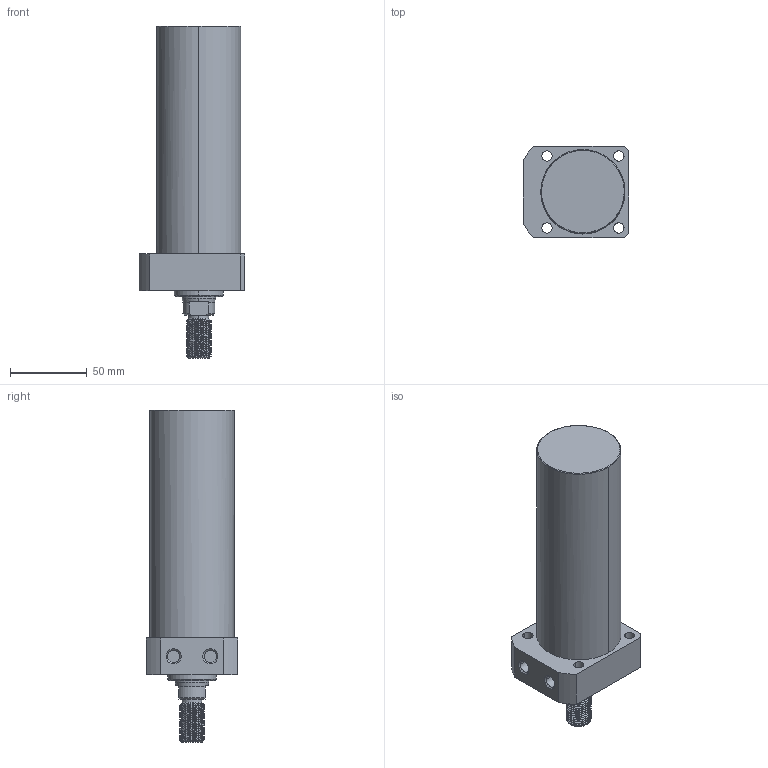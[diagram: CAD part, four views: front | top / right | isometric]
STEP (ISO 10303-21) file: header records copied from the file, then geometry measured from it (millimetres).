
FILE_DESCRIPTION((' '),'2;1');
FILE_NAME( 'TLLR-055CT-120.STEP.stp', '2025-10-24T16:34:49', (' '), ('--- Datakit www.datakit.com---'), ' Datakit CrossCadWare V2024.1 Dec 21 2023', 'Mastercam 2025', ' ');
FILE_SCHEMA(('AUTOMOTIVE_DESIGN { 1 0 10303 214 1 1 1 1 }'));
Length unit declared in the file: millimetre
Products named in the file (1): TLLR-055CT-120
Bounding box: 69 x 60 x 217 mm (x, y, z)
Volume: 458738.4 mm3; surface area: 45546 mm2
Topology: 1 solids, 1 shells, 101 faces, 356 edges, 265 vertices
Faces by surface type: cylinder 61, plane 20, cone 16, bspline 2, torus 2
Entity records: 10090 total; most frequent: CARTESIAN_POINT 7011, ORIENTED_EDGE 712, DIRECTION 516, EDGE_CURVE 356, VERTEX_POINT 265, AXIS2_PLACEMENT_3D 209, B_SPLINE_CURVE_WITH_KNOTS 148, EDGE_LOOP 117
